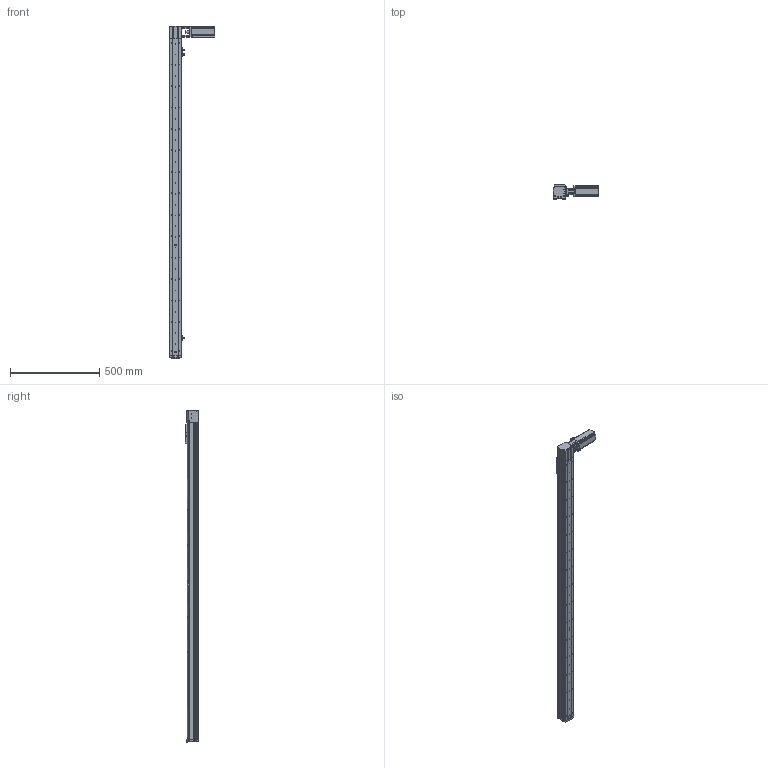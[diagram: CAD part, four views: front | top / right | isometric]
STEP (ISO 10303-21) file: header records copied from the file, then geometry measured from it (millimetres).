
FILE_DESCRIPTION (( 'STEP AP214' ), '1' );
FILE_NAME ('KSD68BS-S1600-MRT-CR.STEP', '2019-08-27T07:33:26', ( '微软用户' ), ( '微软中国' ), 'SwSTEP 2.0', 'SolidWorks 2014', '' );
FILE_SCHEMA (( 'AUTOMOTIVE_DESIGN' ));
Length unit declared in the file: millimetre
Products named in the file (13): 100遵鎮湛假蚾啣1; KSD68BS 1600行程盖板全封闭; 68遵裔啣揤啣1; 68宽单导轨全封闭丝杆传动安装板1防护罩; KSD68BS 1600行程侧板全封闭; 68宽单导轨全封闭同步带端板; 68单导轨全封闭同步带电机座左; 68单导轨全封闭同步带安装板; 感应片68宽全封闭; U倰嫖萇EEㄜSX672; 台达ECMA－C20604AS伺服电机（400W); KSD68BS 1600行程底板全封闭; KSD68BS-S1600-MRT-CR
Assembly tree (16 placements, depth 2):
  KSD68BS-S1600-MRT-CR
    KSD68BS 1600行程底板全封闭
    台达ECMA－C20604AS伺服电机（400W)
    U倰嫖萇EEㄜSX672  x3
    感应片68宽全封闭
    68单导轨全封闭同步带安装板
    68单导轨全封闭同步带电机座左
    68宽单导轨全封闭同步带端板
    KSD68BS 1600行程侧板全封闭  x2
    68宽单导轨全封闭丝杆传动安装板1防护罩
    68遵裔啣揤啣1  x2
    KSD68BS 1600行程盖板全封闭
    100遵鎮湛假蚾啣1
Bounding box: 252.7 x 77 x 1858.1 mm (x, y, z)
Volume: 3293431.2 mm3; surface area: 1315060.2 mm2
Topology: 17 solids, 17 shells, 1547 faces, 4460 edges, 2838 vertices
Faces by surface type: cylinder 757, plane 602, cone 188
Entity records: 50554 total; most frequent: CARTESIAN_POINT 8803, DIRECTION 7451, ORIENTED_EDGE 7132, EDGE_CURVE 3566, AXIS2_PLACEMENT_3D 2722, VERTEX_POINT 2336, LINE 2007, VECTOR 2007
